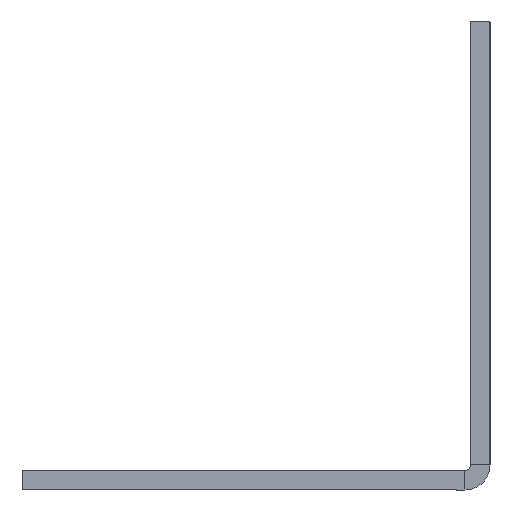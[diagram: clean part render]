
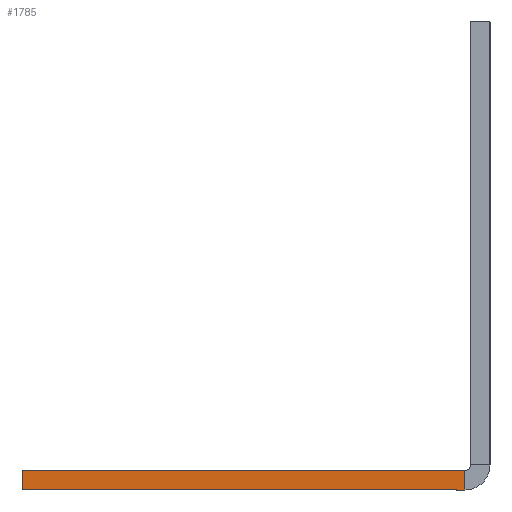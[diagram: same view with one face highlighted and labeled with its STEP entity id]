
A CAD part, left-side view. The second image highlights one B-rep face of the part: STEP entity #1785.
In plain terms, the highlighted planar face has unit normal (-1, 0, 0).
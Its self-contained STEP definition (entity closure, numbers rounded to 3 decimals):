
#59 = LINE ( 'NONE', #97, #1896 ) ;
#97 = CARTESIAN_POINT ( 'NONE',  ( 0., 0.737, -60.462 ) ) ;
#106 = EDGE_CURVE ( 'NONE', #251, #705, #59, .T. ) ;
#120 = ORIENTED_EDGE ( 'NONE', *, *, #500, .T. ) ;
#142 = VECTOR ( 'NONE', #1718, 1000. ) ;
#251 = VERTEX_POINT ( 'NONE', #320 ) ;
#320 = CARTESIAN_POINT ( 'NONE',  ( 0., 0.737, -57.962 ) ) ;
#374 = ORIENTED_EDGE ( 'NONE', *, *, #1071, .F. ) ;
#393 = CARTESIAN_POINT ( 'NONE',  ( 0., -58.038, -60.462 ) ) ;
#500 = EDGE_CURVE ( 'NONE', #1930, #705, #937, .T. ) ;
#646 = FACE_OUTER_BOUND ( 'NONE', #1144, .T. ) ;
#705 = VERTEX_POINT ( 'NONE', #1576 ) ;
#848 = VECTOR ( 'NONE', #1467, 1000. ) ;
#925 = DIRECTION ( 'NONE',  ( 0., 0., -1. ) ) ;
#937 = LINE ( 'NONE', #393, #142 ) ;
#993 = DIRECTION ( 'NONE',  ( 0., -1., 0. ) ) ;
#1047 = DIRECTION ( 'NONE',  ( -1., 0., 0. ) ) ;
#1071 = EDGE_CURVE ( 'NONE', #1930, #2030, #1762, .T. ) ;
#1144 = EDGE_LOOP ( 'NONE', ( #1674, #1578, #374, #120 ) ) ;
#1148 = CARTESIAN_POINT ( 'NONE',  ( 0., 57.962, -60.462 ) ) ;
#1191 = CARTESIAN_POINT ( 'NONE',  ( 0., -58.038, -57.962 ) ) ;
#1354 = PLANE ( 'NONE',  #1406 ) ;
#1377 = DIRECTION ( 'NONE',  ( 0., -1., 0. ) ) ;
#1406 = AXIS2_PLACEMENT_3D ( 'NONE', #1701, #1047, #1377 ) ;
#1415 = CARTESIAN_POINT ( 'NONE',  ( 0., 57.962, -57.962 ) ) ;
#1467 = DIRECTION ( 'NONE',  ( 0., 0., 1. ) ) ;
#1576 = CARTESIAN_POINT ( 'NONE',  ( 0., 0.737, -60.462 ) ) ;
#1578 = ORIENTED_EDGE ( 'NONE', *, *, #1743, .F. ) ;
#1674 = ORIENTED_EDGE ( 'NONE', *, *, #106, .F. ) ;
#1680 = VECTOR ( 'NONE', #993, 1000. ) ;
#1701 = CARTESIAN_POINT ( 'NONE',  ( 0., -58.038, -60.462 ) ) ;
#1718 = DIRECTION ( 'NONE',  ( 0., -1., 0. ) ) ;
#1743 = EDGE_CURVE ( 'NONE', #2030, #251, #2154, .T. ) ;
#1762 = LINE ( 'NONE', #1148, #848 ) ;
#1785 = ADVANCED_FACE ( 'NONE', ( #646 ), #1354, .T. ) ;
#1896 = VECTOR ( 'NONE', #925, 1000. ) ;
#1930 = VERTEX_POINT ( 'NONE', #2089 ) ;
#2030 = VERTEX_POINT ( 'NONE', #1415 ) ;
#2089 = CARTESIAN_POINT ( 'NONE',  ( 0., 57.962, -60.462 ) ) ;
#2154 = LINE ( 'NONE', #1191, #1680 ) ;
